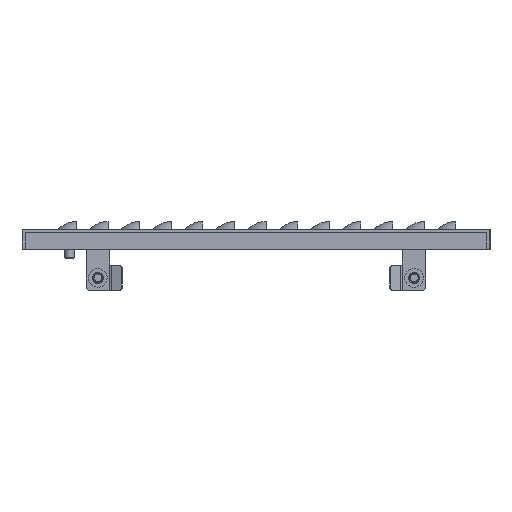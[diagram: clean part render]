
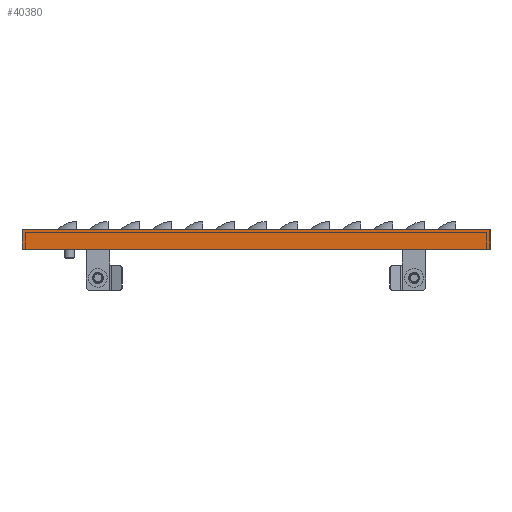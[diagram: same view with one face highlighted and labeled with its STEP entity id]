
A CAD part, left-side view. The second image highlights one B-rep face of the part: STEP entity #40380.
In plain terms, the highlighted planar face has unit normal (-1, 0, 0).
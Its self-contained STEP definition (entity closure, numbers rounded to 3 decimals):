
#1008 = LINE ( 'NONE', #50900, #54730 ) ;
#3294 = CARTESIAN_POINT ( 'NONE',  ( -995., -148., 0. ) ) ;
#3490 = DIRECTION ( 'NONE',  ( 0., 0., 1. ) ) ;
#6400 = VERTEX_POINT ( 'NONE', #20805 ) ;
#6777 = LINE ( 'NONE', #3294, #58504 ) ;
#9010 = EDGE_LOOP ( 'NONE', ( #41923, #17686, #10188, #22868 ) ) ;
#10188 = ORIENTED_EDGE ( 'NONE', *, *, #14619, .T. ) ;
#14619 = EDGE_CURVE ( 'NONE', #6400, #56308, #1008, .T. ) ;
#15025 = LINE ( 'NONE', #34961, #36243 ) ;
#16762 = DIRECTION ( 'NONE',  ( 0., 1., 0. ) ) ;
#17686 = ORIENTED_EDGE ( 'NONE', *, *, #51232, .T. ) ;
#18145 = PLANE ( 'NONE',  #45524 ) ;
#18748 = CARTESIAN_POINT ( 'NONE',  ( -995., -296., 2.928 ) ) ;
#19124 = DIRECTION ( 'NONE',  ( 1., 0., 0. ) ) ;
#20805 = CARTESIAN_POINT ( 'NONE',  ( -995., 0., -12.5 ) ) ;
#22868 = ORIENTED_EDGE ( 'NONE', *, *, #64873, .F. ) ;
#26616 = DIRECTION ( 'NONE',  ( 0., -1., 0. ) ) ;
#26725 = DIRECTION ( 'NONE',  ( 0., 0., -1. ) ) ;
#28424 = CARTESIAN_POINT ( 'NONE',  ( -995., -296., 0. ) ) ;
#29456 = CARTESIAN_POINT ( 'NONE',  ( -995., -296., -12.5 ) ) ;
#34961 = CARTESIAN_POINT ( 'NONE',  ( -995., 0., 2.928 ) ) ;
#36243 = VECTOR ( 'NONE', #49942, 1000. ) ;
#40380 = ADVANCED_FACE ( 'NONE', ( #54058 ), #18145, .F. ) ;
#41923 = ORIENTED_EDGE ( 'NONE', *, *, #50037, .T. ) ;
#42792 = VERTEX_POINT ( 'NONE', #64729 ) ;
#45524 = AXIS2_PLACEMENT_3D ( 'NONE', #49078, #19124, #3490 ) ;
#49078 = CARTESIAN_POINT ( 'NONE',  ( -995., -148., -2. ) ) ;
#49942 = DIRECTION ( 'NONE',  ( 0., 0., -1. ) ) ;
#50037 = EDGE_CURVE ( 'NONE', #51769, #42792, #6777, .T. ) ;
#50900 = CARTESIAN_POINT ( 'NONE',  ( -995., -148., -12.5 ) ) ;
#51232 = EDGE_CURVE ( 'NONE', #42792, #6400, #15025, .T. ) ;
#51769 = VERTEX_POINT ( 'NONE', #28424 ) ;
#51794 = VECTOR ( 'NONE', #26725, 1000. ) ;
#54058 = FACE_OUTER_BOUND ( 'NONE', #9010, .T. ) ;
#54730 = VECTOR ( 'NONE', #26616, 1000. ) ;
#56308 = VERTEX_POINT ( 'NONE', #29456 ) ;
#58504 = VECTOR ( 'NONE', #16762, 1000. ) ;
#60662 = LINE ( 'NONE', #18748, #51794 ) ;
#64729 = CARTESIAN_POINT ( 'NONE',  ( -995., 0., 0. ) ) ;
#64873 = EDGE_CURVE ( 'NONE', #51769, #56308, #60662, .T. ) ;
